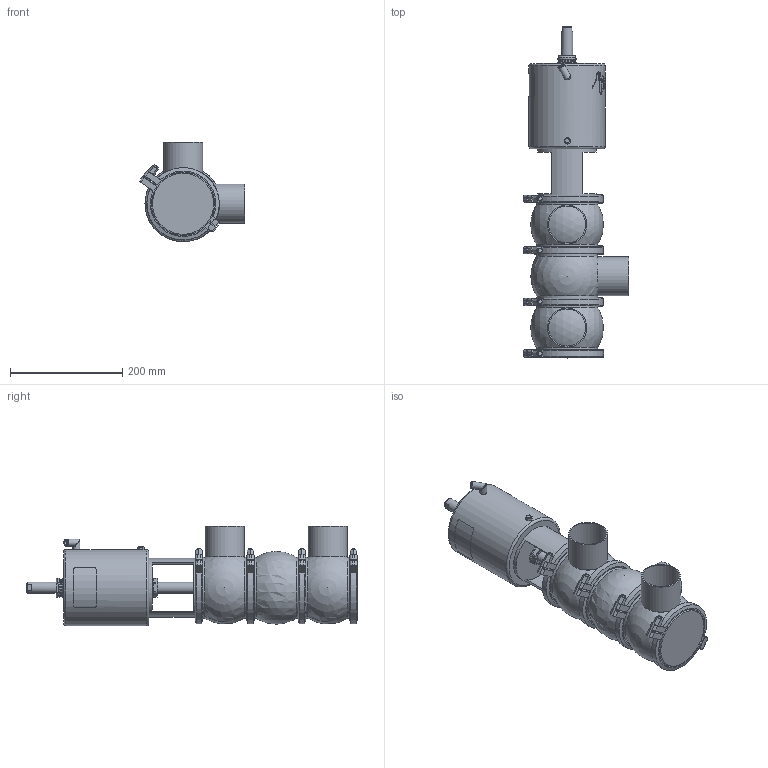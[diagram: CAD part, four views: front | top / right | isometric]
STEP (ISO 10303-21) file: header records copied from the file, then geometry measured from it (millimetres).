
FILE_DESCRIPTION (( 'STEP AP214' ), '1' );
FILE_NAME ('INNOVA L J W DIN 065 T3 AS NC_10.241.16.0013.STEP', '2024-08-07T07:49:08', ( '' ), ( '' ), 'SwSTEP 2.0', 'SolidWorks 2023', '' );
FILE_SCHEMA (( 'AUTOMOTIVE_DESIGN' ));
Length unit declared in the file: millimetre
Products named in the file (6): 10.241.15.0001_DIN 065; 10.240.15.0010_DN 065; 10.240.15.0001_DN 065; 10.240.15.0006_DIN 065; 10.240.15.0014_T3 AS P180; INNOVA L J W DIN 065 T3 AS NC_10.241.16.0013
Assembly tree (10 placements, depth 2):
  INNOVA L J W DIN 065 T3 AS NC_10.241.16.0013
    10.240.15.0006_DIN 065  x3
    10.240.15.0010_DN 065
    10.240.15.0014_T3 AS P180
    10.240.15.0001_DN 065  x4
    10.241.15.0001_DIN 065
Bounding box: 188.15 x 592.5 x 178 mm (x, y, z)
Volume: 5900767.8 mm3; surface area: 537918.6 mm2
Topology: 11 solids, 11 shells, 535 faces, 1403 edges, 914 vertices
Faces by surface type: plane 263, cylinder 136, bspline 80, cone 46, sphere 6, torus 4
Full cylindrical faces by diameter (mm): 6.15 x1, 8 x9, 8.5 x1, 10.5 x1, 12.5 x3, 16 x1, 20 x2, 31 x1, 34.5 x2, 36.5 x1, 66 x3, 70 x3, 105 x1, 109 x7, 121 x8, 136 x1
Entity records: 20416 total; most frequent: CARTESIAN_POINT 11276, ORIENTED_EDGE 1594, DIRECTION 1213, EDGE_CURVE 797, VERTEX_POINT 548, AXIS2_PLACEMENT_3D 462, EDGE_LOOP 401, FACE_OUTER_BOUND 361
